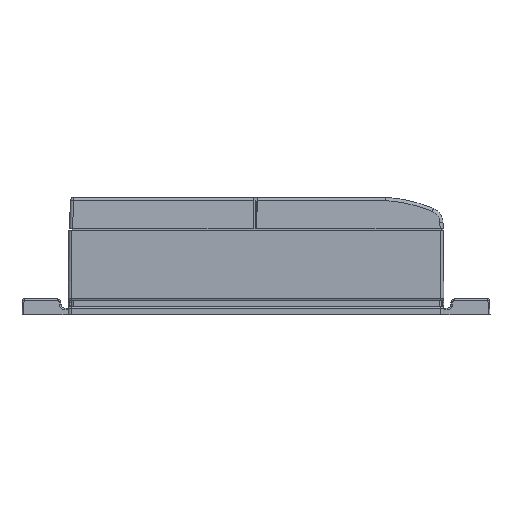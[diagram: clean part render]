
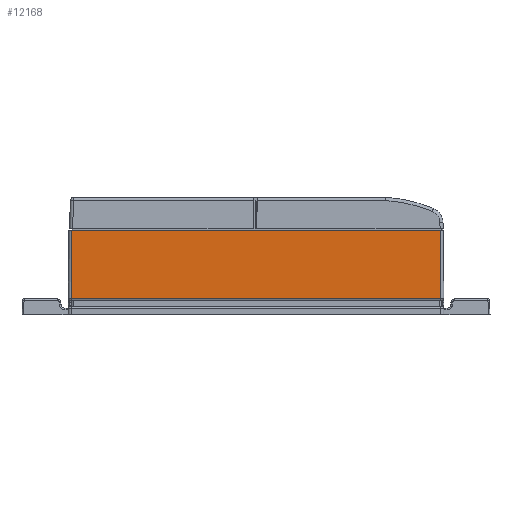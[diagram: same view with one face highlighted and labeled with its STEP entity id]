
A CAD part, left-side view. The second image highlights one B-rep face of the part: STEP entity #12168.
In plain terms, the highlighted planar face has unit normal (-1, 0, -0.018).
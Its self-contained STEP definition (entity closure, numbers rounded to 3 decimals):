
#109 = CARTESIAN_POINT ( 'NONE',  ( 0.004, 47.6, 10.75 ) ) ;
#293 = AXIS2_PLACEMENT_3D ( 'NONE', #2608, #6929, #11273 ) ;
#493 = DIRECTION ( 'NONE',  ( 0.017, -0.009, -1. ) ) ;
#597 = VERTEX_POINT ( 'NONE', #2855 ) ;
#609 = LINE ( 'NONE', #4965, #5387 ) ;
#1682 = VERTEX_POINT ( 'NONE', #3203 ) ;
#2282 = EDGE_CURVE ( 'NONE', #597, #11541, #10294, .T. ) ;
#2608 = CARTESIAN_POINT ( 'NONE',  ( 0., 0., 11. ) ) ;
#2855 = CARTESIAN_POINT ( 'NONE',  ( 0.004, 47.6, 10.75 ) ) ;
#3203 = CARTESIAN_POINT ( 'NONE',  ( 0.157, 0.324, 1.997 ) ) ;
#3841 = CARTESIAN_POINT ( 'NONE',  ( 0.004, 0., 10.75 ) ) ;
#4039 = EDGE_CURVE ( 'NONE', #12824, #1682, #609, .T. ) ;
#4250 = VECTOR ( 'NONE', #493, 1000. ) ;
#4444 = DIRECTION ( 'NONE',  ( -0.017, -0.009, 1. ) ) ;
#4695 = ORIENTED_EDGE ( 'NONE', *, *, #2282, .F. ) ;
#4965 = CARTESIAN_POINT ( 'NONE',  ( 0.157, 0., 1.997 ) ) ;
#5080 = EDGE_CURVE ( 'NONE', #12824, #597, #9825, .T. ) ;
#5387 = VECTOR ( 'NONE', #9275, 1000. ) ;
#5447 = CARTESIAN_POINT ( 'NONE',  ( 0.157, 47.676, 1.997 ) ) ;
#5899 = LINE ( 'NONE', #10224, #4250 ) ;
#5928 = EDGE_CURVE ( 'NONE', #11541, #1682, #5899, .T. ) ;
#6929 = DIRECTION ( 'NONE',  ( -1., 0., -0.017 ) ) ;
#7206 = VECTOR ( 'NONE', #4444, 1000. ) ;
#8008 = FACE_OUTER_BOUND ( 'NONE', #9349, .T. ) ;
#8159 = DIRECTION ( 'NONE',  ( 0., -1., 0. ) ) ;
#9275 = DIRECTION ( 'NONE',  ( 0., -1., 0. ) ) ;
#9349 = EDGE_LOOP ( 'NONE', ( #9619, #13100, #11026, #4695 ) ) ;
#9619 = ORIENTED_EDGE ( 'NONE', *, *, #5080, .F. ) ;
#9825 = LINE ( 'NONE', #109, #7206 ) ;
#10224 = CARTESIAN_POINT ( 'NONE',  ( 0., 0.402, 10.996 ) ) ;
#10294 = LINE ( 'NONE', #3841, #12067 ) ;
#11026 = ORIENTED_EDGE ( 'NONE', *, *, #5928, .F. ) ;
#11273 = DIRECTION ( 'NONE',  ( -0.017, 0., 1. ) ) ;
#11461 = CARTESIAN_POINT ( 'NONE',  ( 0.004, 0.4, 10.75 ) ) ;
#11541 = VERTEX_POINT ( 'NONE', #11461 ) ;
#12067 = VECTOR ( 'NONE', #8159, 1000. ) ;
#12168 = ADVANCED_FACE ( 'NONE', ( #8008 ), #12324, .T. ) ;
#12324 = PLANE ( 'NONE',  #293 ) ;
#12824 = VERTEX_POINT ( 'NONE', #5447 ) ;
#13100 = ORIENTED_EDGE ( 'NONE', *, *, #4039, .T. ) ;
